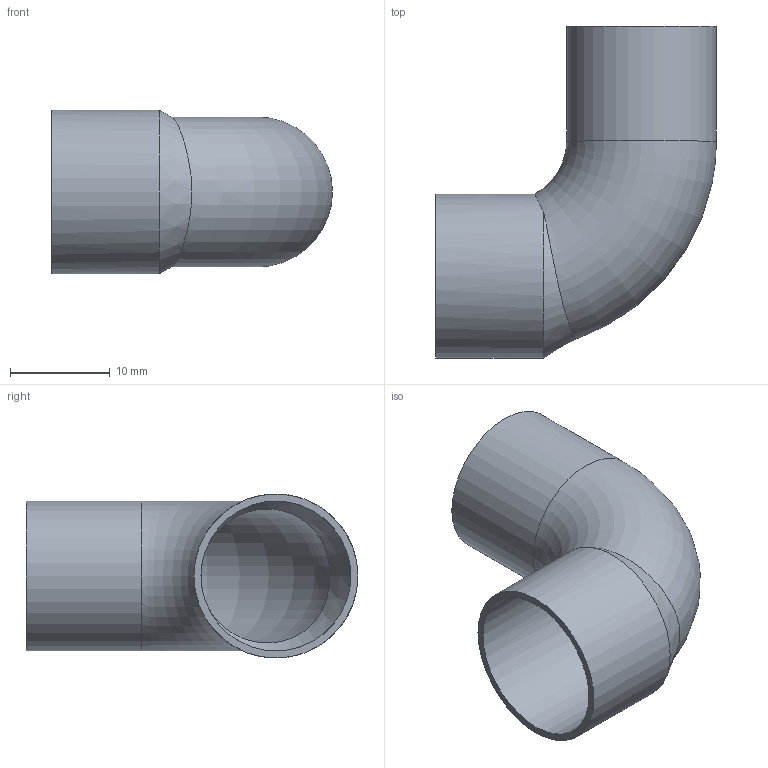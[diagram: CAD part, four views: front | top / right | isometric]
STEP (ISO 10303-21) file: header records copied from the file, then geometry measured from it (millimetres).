
FILE_DESCRIPTION((''),'2;1');
FILE_NAME('G:\SANHA-Ternat\Technik\Management\Bouwmaten + markeringen\z-maattekeningen 3D\5000\5092\1509215(0).stp','2018-02-20T09:44:49',('vdvijverd'),(''),'Autodesk Inventor 2009','Autodesk Inventor 2009','');
FILE_SCHEMA(('AUTOMOTIVE_DESIGN { 1 0 10303 214 1 1 1 1 }'));
Length unit declared in the file: millimetre
Products named in the file (1): 1509215(0)
Bounding box: 28.1 x 33.2 x 16.4 mm (x, y, z)
Volume: 1409 mm3; surface area: 3743.3 mm2
Topology: 1 solids, 1 shells, 10 faces, 24 edges, 16 vertices
Faces by surface type: cylinder 4, plane 2, cone 2, torus 2
Full cylindrical faces by diameter (mm): 13.4 x1, 15 x2, 16.4 x1
Entity records: 377 total; most frequent: CARTESIAN_POINT 166, DIRECTION 38, ORIENTED_EDGE 28, AXIS2_PLACEMENT_3D 19, EDGE_LOOP 18, EDGE_CURVE 14, VERTEX_POINT 12, FACE_OUTER_BOUND 10
